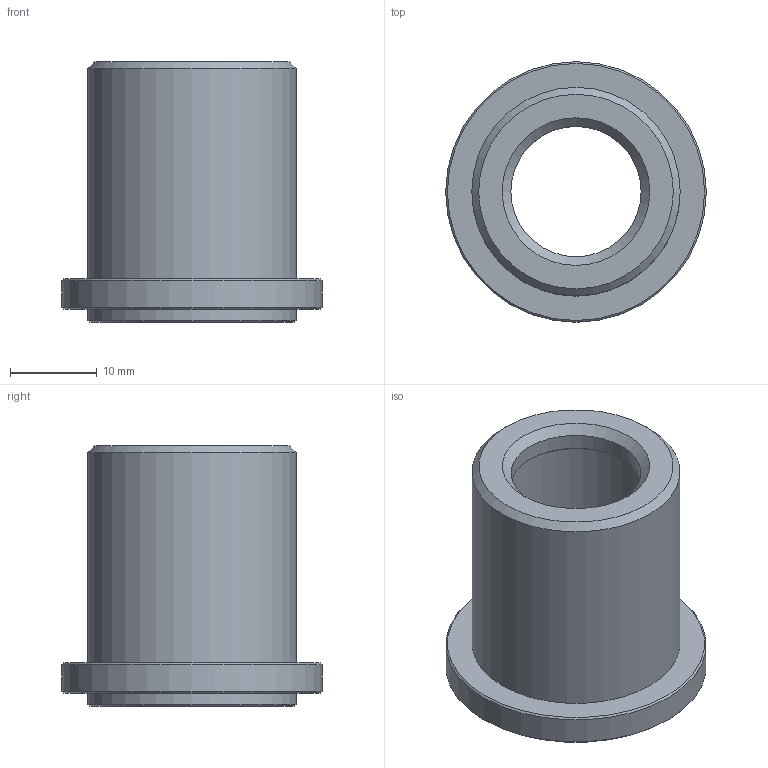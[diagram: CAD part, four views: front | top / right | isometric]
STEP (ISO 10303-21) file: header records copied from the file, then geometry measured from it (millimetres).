
FILE_DESCRIPTION(/* description */ (''),/* implementation_level */ '2;1');
FILE_NAME(/* name */ 'Befestigung_4_Einschweissbuchse.stp',/* time_stamp */ '2012-01-19T14:15:22+01:00',/* author */ (''),/* organization */ (''),/* preprocessor_version */ 'ST-DEVELOPER v11',/* originating_system */ 'UGS - NX 5.0',/* authorisation */ '');
FILE_SCHEMA (('AP203_CONFIGURATION_CONTROLLED_3D_DESIGN_OF_MECHANICAL_PARTS_AND_ASSEMBLIES_MIM_LF'));
Length unit declared in the file: millimetre
Products named in the file (1): Kien431318lv
Bounding box: 30 x 30 x 30 mm (x, y, z)
Volume: 6131.1 mm3; surface area: 5056.7 mm2
Topology: 1 solids, 1 shells, 23 faces, 46 edges, 28 vertices
Faces by surface type: cone 10, cylinder 8, plane 5
Full cylindrical faces by diameter (mm): 15 x1, 18.5 x2, 20.4 x2, 24 x2, 30 x1
Entity records: 564 total; most frequent: DIRECTION 94, CARTESIAN_POINT 70, AXIS2_PLACEMENT_3D 47, FACE_BOUND 46, EDGE_LOOP 46, ORIENTED_EDGE 46, ADVANCED_FACE 23, VERTEX_POINT 23
